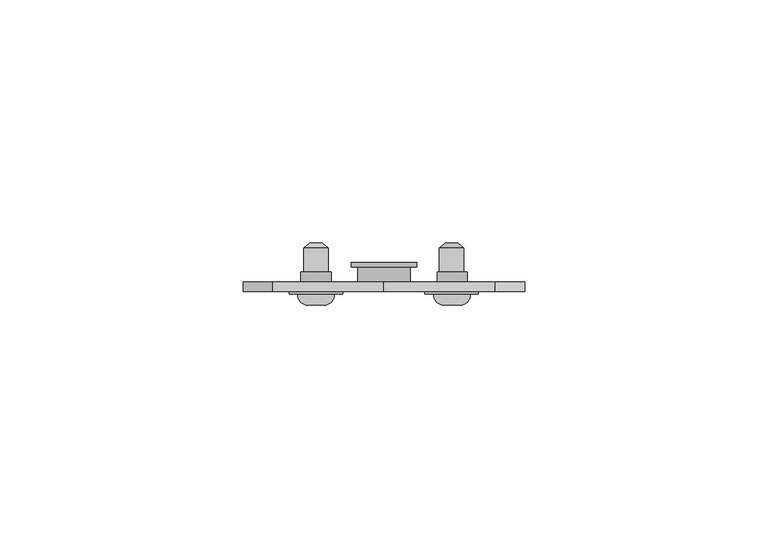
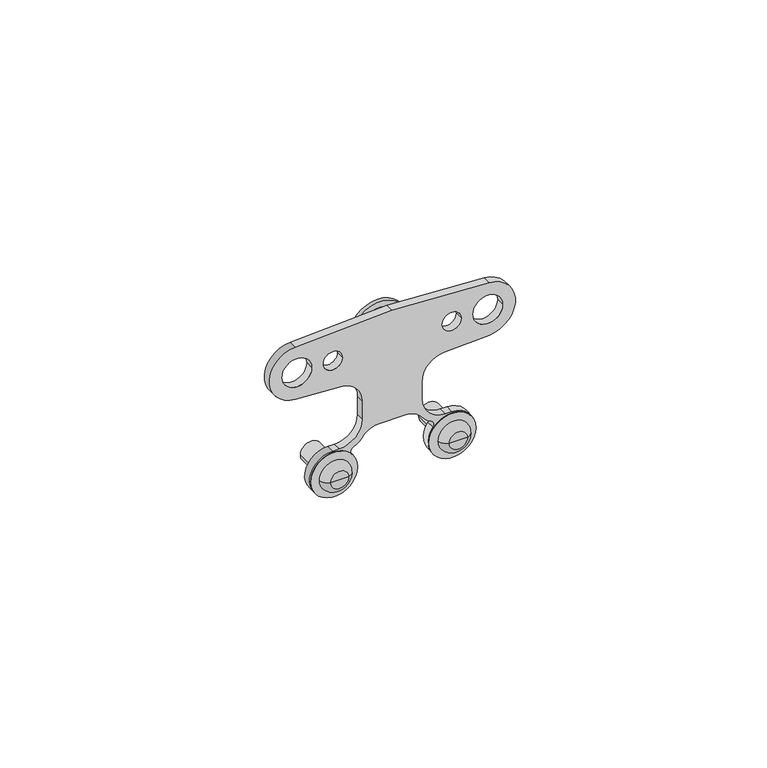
"""IFC4 building model written with IfcOpenShell, lengths in millimetres: proxy geometry, REHAU_RAUTITAN_Insulation plate for brackets : REHAU_RAUTITAN_Insulation plate for brackets."""

from ifc_helpers import new_model, si_unit, point, frame, frame_2d, origin, place, context, project, spatial, polyline, circle_curve, ellipse_curve, trimmed, segment, composite_curve, outline, extrude, source, transform, mapped, element, save
from ifc_brep_helpers import plane_surface, revolved_surface, advanced_brep


def mechanical_equipment_31ec48f0(model_context):
    return source(origin(), model_context, "Body", "SolidModel", [
        extrude(outline(composite_curve([segment(polyline([(-22.5, 14.0625605), (-22.5, 12.5625605)]), True, "CONTINUOUS"), segment(trimmed(circle_curve(frame_2d((-17.0, 12.5625605)), 5.5), [point((-22.5, 12.5625605))], [point((-17.0, 7.0625605))], True, "CARTESIAN"), True, "CONTINUOUS"), segment(polyline([(-17.0, 7.0625605), (-12.5524507, 7.0625605)]), True, "CONTINUOUS"), segment(trimmed(circle_curve(frame_2d((-12.5524507, 12.5625605)), 5.5), [point((-12.5524507, 7.0625605))], [point((-7.0599882, 12.2747127))], True, "CARTESIAN"), True, "CONTINUOUS"), segment(polyline([(-7.0599882, 12.2747127), (-6.4990411, 22.9026404)]), True, "CONTINUOUS"), segment(trimmed(circle_curve(frame_2d((1e-07, 22.5627668)), 6.5079221), [point((-6.4990411, 22.9026404))], [point((6.4990418, 22.9026304))], False, "CARTESIAN"), True, "CONTINUOUS"), segment(polyline([(6.4990418, 22.9026304), (7.6967213, 0.0), (6.4950803, -22.7771082)]), True, "CONTINUOUS"), segment(trimmed(circle_curve(frame_2d((-0.0039864, -22.4376495)), 6.5079259), [point((6.4950803, -22.7771082))], [point((-6.5036217, -22.76604))], False, "CARTESIAN"), True, "CONTINUOUS"), segment(polyline([(-6.5036217, -22.76604), (-7.0599877, -12.1496011)]), True, "CONTINUOUS"), segment(trimmed(circle_curve(frame_2d((-12.5524507, -12.4374395)), 5.5), [point((-7.0599877, -12.1496011))], [point((-12.5524507, -6.9374395))], True, "CARTESIAN"), True, "CONTINUOUS"), segment(polyline([(-12.5524507, -6.9374395), (-17.0, -6.9374395)]), True, "CONTINUOUS"), segment(trimmed(circle_curve(frame_2d((-17.0, -12.4374395)), 5.5), [point((-17.0, -6.9374395))], [point((-22.5, -12.4374395))], True, "CARTESIAN"), True, "CONTINUOUS"), segment(polyline([(-22.5, -12.4374395), (-22.5, -13.9389471)]), True, "CONTINUOUS"), segment(trimmed(circle_curve(frame_2d((-28.0, -13.9389471)), 5.5), [point((-22.5, -13.9389471))], [point((-24.7162453, -9.5268099))], False, "CARTESIAN"), True, "CONTINUOUS"), segment(trimmed(circle_curve(frame_2d((-24.0956729, -8.7426608)), 1.0), [point((-24.7162453, -9.5268099))], [point((-23.1790312, -9.1423708))], True, "CARTESIAN"), True, "CONTINUOUS"), segment(trimmed(circle_curve(frame_2d((-18.5958231, -11.1409211)), 5.0), [point((-23.1790312, -9.1423708))], [point((-21.5479116, -7.1054318))], False, "CARTESIAN"), True, "CONTINUOUS"), segment(trimmed(circle_curve(frame_2d((-24.5, -3.0699425)), 5.0), [point((-21.5479116, -7.1054318))], [point((-19.5, -3.0699425))], True, "CARTESIAN"), True, "CONTINUOUS"), segment(polyline([(-19.5, -3.0699425), (-19.5, 3.1949762)]), True, "CONTINUOUS"), segment(trimmed(circle_curve(frame_2d((-24.5, 3.1949762)), 5.0), [point((-19.5, 3.1949762))], [point((-21.5479116, 7.2304655))], True, "CARTESIAN"), True, "CONTINUOUS"), segment(trimmed(circle_curve(frame_2d((-18.5958231, 11.2659548)), 5.0), [point((-21.5479116, 7.2304655))], [point((-23.1790312, 9.2674045))], False, "CARTESIAN"), True, "CONTINUOUS"), segment(trimmed(circle_curve(frame_2d((-24.0956729, 8.8676944)), 1.0), [point((-23.1790312, 9.2674045))], [point((-24.7360783, 9.6357314))], True, "CARTESIAN"), True, "CONTINUOUS"), segment(trimmed(circle_curve(frame_2d((-28.0, 14.0625605)), 5.5), [point((-24.7360783, 9.6357314))], [point((-22.5, 14.0625605))], False, "CARTESIAN"), True, "CONTINUOUS")], self_intersect=False), holes=[composite_curve([segment(trimmed(circle_curve(frame_2d((0.0, 22.5625605)), 3.5), [point((0.0, 26.0625605))], [point((0.0, 19.0625605))], True, "CARTESIAN"), True, "CONTINUOUS"), segment(trimmed(circle_curve(frame_2d((0.0, 22.5625605)), 3.5), [point((0.0, 19.0625605))], [point((0.0, 26.0625605))], True, "CARTESIAN"), True, "CONTINUOUS")], self_intersect=False), composite_curve([segment(trimmed(circle_curve(frame_2d((0.0, -22.4374395)), 3.5), [point((0.0, -18.9374395))], [point((0.0, -25.9374395))], True, "CARTESIAN"), True, "CONTINUOUS"), segment(trimmed(circle_curve(frame_2d((0.0, -22.4374395)), 3.5), [point((0.0, -25.9374395))], [point((0.0, -18.9374395))], True, "CARTESIAN"), True, "CONTINUOUS")], self_intersect=False), composite_curve([segment(trimmed(circle_curve(frame_2d((0.0, -13.9374395)), 2.25), [point((0.0, -11.6874395))], [point((0.0, -16.1874395))], True, "CARTESIAN"), True, "CONTINUOUS"), segment(trimmed(circle_curve(frame_2d((0.0, -13.9374395)), 2.25), [point((0.0, -16.1874395))], [point((0.0, -11.6874395))], True, "CARTESIAN"), True, "CONTINUOUS")], self_intersect=False), composite_curve([segment(trimmed(circle_curve(frame_2d((0.0, 14.0625605)), 2.25), [point((0.0, 16.3125605))], [point((0.0, 11.8125605))], True, "CARTESIAN"), True, "CONTINUOUS"), segment(trimmed(circle_curve(frame_2d((0.0, 14.0625605)), 2.25), [point((0.0, 11.8125605))], [point((0.0, 16.3125605))], True, "CARTESIAN"), True, "CONTINUOUS")], self_intersect=False), composite_curve([segment(trimmed(circle_curve(frame_2d((-28.0, 14.0625605)), 2.25), [point((-28.0, 16.3125605))], [point((-28.0, 11.8125605))], True, "CARTESIAN"), True, "CONTINUOUS"), segment(trimmed(circle_curve(frame_2d((-28.0, 14.0625605)), 2.25), [point((-28.0, 11.8125605))], [point((-28.0, 16.3125605))], True, "CARTESIAN"), True, "CONTINUOUS")], self_intersect=False), composite_curve([segment(trimmed(circle_curve(frame_2d((-28.0, -13.9374395)), 2.25), [point((-28.0, -11.6874395))], [point((-28.0, -16.1874395))], True, "CARTESIAN"), True, "CONTINUOUS"), segment(trimmed(circle_curve(frame_2d((-28.0, -13.9374395)), 2.25), [point((-28.0, -16.1874395))], [point((-28.0, -11.6874395))], True, "CARTESIAN"), True, "CONTINUOUS")], self_intersect=False)]), frame((0.0, -2.0, 0.0), z_axis=(0.0, 1.0, 0.0), x_axis=(0.0, 0.0, 1.0)), (0.0, 0.0, 1.0), 2.0),
        extrude(outline(composite_curve([segment(trimmed(circle_curve(frame_2d((-28.0, -13.9374395)), 3.1), [point((-28.0, -10.8374395))], [point((-28.0, -17.0374395))], False, "CARTESIAN"), True, "CONTINUOUS"), segment(trimmed(circle_curve(frame_2d((-28.0, -13.9374395)), 3.1), [point((-28.0, -17.0374395))], [point((-28.0, -10.8374395))], False, "CARTESIAN"), True, "CONTINUOUS")], self_intersect=False), holes=[composite_curve([segment(trimmed(circle_curve(frame_2d((-28.0, -13.9374395)), 2.25), [point((-28.0, -16.1874395))], [point((-28.0, -11.6874395))], True, "CARTESIAN"), True, "CONTINUOUS"), segment(trimmed(circle_curve(frame_2d((-28.0, -13.9374395)), 2.25), [point((-28.0, -11.6874395))], [point((-28.0, -16.1874395))], True, "CARTESIAN"), True, "CONTINUOUS")], self_intersect=False)]), frame((0.0, 0.0, 0.0), z_axis=(0.0, 1.0, 0.0), x_axis=(0.0, 0.0, 1.0)), (0.0, 0.0, 1.0), 2.0),
        extrude(outline(composite_curve([segment(trimmed(circle_curve(frame_2d((-28.0, 14.0625605)), 3.1), [point((-28.0, 17.1625605))], [point((-28.0, 10.9625605))], False, "CARTESIAN"), True, "CONTINUOUS"), segment(trimmed(circle_curve(frame_2d((-28.0, 14.0625605)), 3.1), [point((-28.0, 10.9625605))], [point((-28.0, 17.1625605))], False, "CARTESIAN"), True, "CONTINUOUS")], self_intersect=False), holes=[composite_curve([segment(trimmed(circle_curve(frame_2d((-28.0, 14.0625605)), 2.25), [point((-28.0, 11.8125605))], [point((-28.0, 16.3125605))], True, "CARTESIAN"), True, "CONTINUOUS"), segment(trimmed(circle_curve(frame_2d((-28.0, 14.0625605)), 2.25), [point((-28.0, 16.3125605))], [point((-28.0, 11.8125605))], True, "CARTESIAN"), True, "CONTINUOUS")], self_intersect=False)]), frame((0.0, 0.0, 0.0), z_axis=(0.0, 1.0, 0.0), x_axis=(0.0, 0.0, 1.0)), (0.0, 0.0, 1.0), 2.0),
        extrude(outline(composite_curve([segment(trimmed(circle_curve(frame_2d((0.0, 0.0625605)), 5.4), [point((0.0, 5.4625605))], [point((0.0, -5.3374395))], False, "CARTESIAN"), True, "CONTINUOUS"), segment(trimmed(circle_curve(frame_2d((0.0, 0.0625605)), 5.4), [point((0.0, -5.3374395))], [point((0.0, 5.4625605))], False, "CARTESIAN"), True, "CONTINUOUS")], self_intersect=False)), frame((0.0, 0.0, 0.0), z_axis=(0.0, 1.0, 0.0), x_axis=(0.0, 0.0, 1.0)), (0.0, 0.0, 1.0), 3.0),
        extrude(outline(composite_curve([segment(trimmed(circle_curve(frame_2d((0.0, 0.0625605)), 6.75), [point((0.0, -6.6874395))], [point((0.0, 6.8125605))], False, "CARTESIAN"), True, "CONTINUOUS"), segment(trimmed(circle_curve(frame_2d((0.0, 0.0625605)), 6.75), [point((0.0, 6.8125605))], [point((0.0, -6.6874395))], False, "CARTESIAN"), True, "CONTINUOUS")], self_intersect=False)), frame((0.0, 3.0, 0.0), z_axis=(0.0, 1.0, 0.0), x_axis=(0.0, 0.0, 1.0)), (0.0, 0.0, 1.0), 1.0),
        extrude(outline(composite_curve([segment(trimmed(circle_curve(frame_2d((-28.0, -13.9374395)), 2.5495098), [point((-28.0, -16.4869493))], [point((-28.0, -11.3879298))], False, "CARTESIAN"), True, "CONTINUOUS"), segment(trimmed(circle_curve(frame_2d((-28.0, -13.9374395)), 2.5495098), [point((-28.0, -11.3879298))], [point((-28.0, -16.4869493))], False, "CARTESIAN"), True, "CONTINUOUS")], self_intersect=False)), frame((0.0, -2.0, 0.0), z_axis=(0.0, 1.0, 0.0), x_axis=(0.0, 0.0, 1.0)), (0.0, 0.0, 1.0), 8.9),
        extrude(outline(composite_curve([segment(trimmed(circle_curve(frame_2d((-28.0, 13.9374395)), 2.5495098), [point((-28.0, 16.4869493))], [point((-28.0, 11.3879298))], False, "CARTESIAN"), True, "CONTINUOUS"), segment(trimmed(circle_curve(frame_2d((-28.0, 13.9374395)), 2.5495098), [point((-28.0, 11.3879298))], [point((-28.0, 16.4869493))], False, "CARTESIAN"), True, "CONTINUOUS")], self_intersect=False)), frame((0.0, -2.0, 0.0), z_axis=(0.0, 1.0, 0.0), x_axis=(0.0, 0.0, 1.0)), (0.0, 0.0, 1.0), 8.9),
        extrude(outline(composite_curve([segment(trimmed(circle_curve(frame_2d((-28.0, -13.9374395)), 5.4984924), [point((-28.0, -8.4389471))], [point((-28.0, -19.435932))], False, "CARTESIAN"), True, "CONTINUOUS"), segment(trimmed(circle_curve(frame_2d((-28.0, -13.9374395)), 5.4984924), [point((-28.0, -19.435932))], [point((-28.0, -8.4389471))], False, "CARTESIAN"), True, "CONTINUOUS")], self_intersect=False)), frame((0.0, -2.55, 0.0), z_axis=(0.0, 1.0, 0.0), x_axis=(0.0, 0.0, 1.0)), (0.0, 0.0, 1.0), 0.55),
        extrude(outline(composite_curve([segment(trimmed(circle_curve(frame_2d((-28.0, 13.9374395)), 5.4984924), [point((-28.0, 8.4389471))], [point((-28.0, 19.435932))], False, "CARTESIAN"), True, "CONTINUOUS"), segment(trimmed(circle_curve(frame_2d((-28.0, 13.9374395)), 5.4984924), [point((-28.0, 19.435932))], [point((-28.0, 8.4389471))], False, "CARTESIAN"), True, "CONTINUOUS")], self_intersect=False)), frame((0.0, -2.55, 0.0), z_axis=(0.0, 1.0, 0.0), x_axis=(0.0, 0.0, 1.0)), (0.0, 0.0, 1.0), 0.55),
        advanced_brep(
        [(-13.9374395, -4.7430172, -28.0), (-16.0553232, -4.7430172, -28.0), (-11.8195559, -4.7430172, -28.0), (-10.1726229, -2.55, -28.0), (-17.7022562, -2.55, -28.0), (-13.9374395, -2.55, -28.0)],
        [
            (0, 1),
            (1, 2, circle_curve(frame((-13.9374395, -4.7430172, -28.0), z_axis=(0.0, -1.0, 0.0), x_axis=(-1.0, 0.0, 0.0)), 2.1178837)),
            (2, 0),
            (2, 1, circle_curve(frame((-13.9374395, -4.7430172, -28.0), z_axis=(0.0, -1.0, 0.0), x_axis=(-1.0, 0.0, 0.0)), 2.1178837)),
            (3, 4, circle_curve(frame((-13.9374395, -2.55, -28.0), z_axis=(0.0, 1.0, 0.0), x_axis=(-1.0, 0.0, 0.0)), 3.7648166)),
            (4, 5),
            (5, 3),
            (4, 3, circle_curve(frame((-13.9374395, -2.55, -28.0), z_axis=(0.0, 1.0, 0.0), x_axis=(-1.0, 0.0, 0.0)), 3.7648166)),
            (1, 4, circle_curve(frame((-15.6461965, -2.7208441, -28.0), z_axis=(0.0, 0.0, -1.0), x_axis=(1.0, 0.0, 0.0)), 2.0631454)),
            (3, 2, circle_curve(frame((-12.2286826, -2.7208441, -28.0), z_axis=(0.0, 0.0, -1.0), x_axis=(-1.0, 0.0, 0.0)), 2.0631454)),
        ],
        [
            plane_surface(frame((-13.9374395, -4.7430172, -28.0), z_axis=(0.0, -1.0, 0.0), x_axis=(-1.0, 0.0, 0.0))),
            plane_surface(frame((-13.9374395, -2.55, -28.0), z_axis=(0.0, 1.0, 0.0), x_axis=(-1.0, 0.0, 0.0))),
            revolved_surface(trimmed(ellipse_curve(frame((-15.6461965, -2.7208441, -28.0), z_axis=(0.0, 0.0, 1.0), x_axis=(1.0, 0.0, 0.0)), 2.0631454, 2.0631454), [point((-17.7022562, -2.55, -28.0))], [point((-16.0553232, -4.7430172, -28.0))], True, "CARTESIAN"), (-13.9374395, -2.55, -28.0), (0.0, -1.0, 0.0)),
        ],
        [
            (0, [[1, 2, 3]]),
            (0, [[-3, 4, -1]]),
            (1, [[5, 6, 7]]),
            (1, [[8, -7, -6]]),
            (2, [[-2, 9, -5, 10]]),
            (2, [[-4, -10, -8, -9]]),
        ],
    ),
        advanced_brep(
        [(14.064068, -4.7430172, -28.0), (11.9461844, -4.7430172, -28.0), (16.1819517, -4.7430172, -28.0), (17.8288847, -2.55, -28.0), (10.2992514, -2.55, -28.0), (14.064068, -2.55, -28.0)],
        [
            (0, 1),
            (1, 2, circle_curve(frame((14.064068, -4.7430172, -28.0), z_axis=(0.0, -1.0, 0.0), x_axis=(-1.0, 0.0, 0.0)), 2.1178837)),
            (2, 0),
            (2, 1, circle_curve(frame((14.064068, -4.7430172, -28.0), z_axis=(0.0, -1.0, 0.0), x_axis=(-1.0, 0.0, 0.0)), 2.1178837)),
            (3, 4, circle_curve(frame((14.064068, -2.55, -28.0), z_axis=(0.0, 1.0, 0.0), x_axis=(-1.0, 0.0, 0.0)), 3.7648166)),
            (4, 5),
            (5, 3),
            (4, 3, circle_curve(frame((14.064068, -2.55, -28.0), z_axis=(0.0, 1.0, 0.0), x_axis=(-1.0, 0.0, 0.0)), 3.7648166)),
            (1, 4, circle_curve(frame((12.3553111, -2.7208441, -28.0), z_axis=(0.0, 0.0, -1.0), x_axis=(1.0, 0.0, 0.0)), 2.0631454)),
            (3, 2, circle_curve(frame((15.772825, -2.7208441, -28.0), z_axis=(0.0, 0.0, -1.0), x_axis=(-1.0, 0.0, 0.0)), 2.0631454)),
        ],
        [
            plane_surface(frame((14.064068, -4.7430172, -28.0), z_axis=(0.0, -1.0, 0.0), x_axis=(-1.0, 0.0, 0.0))),
            plane_surface(frame((14.064068, -2.55, -28.0), z_axis=(0.0, 1.0, 0.0), x_axis=(-1.0, 0.0, 0.0))),
            revolved_surface(trimmed(ellipse_curve(frame((12.3553111, -2.7208441, -28.0), z_axis=(0.0, 0.0, 1.0), x_axis=(1.0, 0.0, 0.0)), 2.0631454, 2.0631454), [point((10.2992514, -2.55, -28.0))], [point((11.9461844, -4.7430172, -28.0))], True, "CARTESIAN"), (14.064068, -2.55, -28.0), (0.0, -1.0, 0.0)),
        ],
        [
            (0, [[1, 2, 3]]),
            (0, [[-3, 4, -1]]),
            (1, [[5, 6, 7]]),
            (1, [[8, -7, -6]]),
            (2, [[-2, 9, -5, 10]]),
            (2, [[-4, -10, -8, -9]]),
        ],
    ),
        advanced_brep(
        [(-12.6674395, 8.0, -28.0), (-15.2074395, 8.0, -28.0), (-13.9374395, 8.0, -28.0), (-11.3879298, 6.9, -28.0), (-16.4869493, 6.9, -28.0), (-13.9374395, 6.9, -28.0)],
        [
            (0, 1, circle_curve(frame((-13.9374395, 8.0, -28.0), z_axis=(0.0, 1.0, 0.0), x_axis=(-1.0, 0.0, 0.0)), 1.27)),
            (1, 2),
            (2, 0),
            (1, 0, circle_curve(frame((-13.9374395, 8.0, -28.0), z_axis=(0.0, 1.0, 0.0), x_axis=(-1.0, 0.0, 0.0)), 1.27)),
            (3, 4, circle_curve(frame((-13.9374395, 6.9, -28.0), z_axis=(0.0, 1.0, 0.0), x_axis=(-1.0, 0.0, 0.0)), 2.5495098)),
            (4, 1),
            (0, 3),
            (4, 3, circle_curve(frame((-13.9374395, 6.9, -28.0), z_axis=(0.0, 1.0, 0.0), x_axis=(-1.0, 0.0, 0.0)), 2.5495098)),
            (5, 4),
            (3, 5),
        ],
        [
            plane_surface(frame((-13.9374395, 8.0, -28.0), z_axis=(0.0, 1.0, 0.0), x_axis=(-1.0, 0.0, 0.0))),
            revolved_surface(polyline([(-15.2074395, 8.0, -28.0), (-16.4869493, 6.9, -28.0)]), (-13.9374395, 8.0, -28.0), (0.0, -1.0, 0.0)),
            plane_surface(frame((-13.9374395, 6.9, -28.0), z_axis=(0.0, -1.0, 0.0), x_axis=(-1.0, 0.0, 0.0))),
        ],
        [
            (0, [[1, 2, 3]]),
            (0, [[4, -3, -2]]),
            (1, [[5, 6, -1, 7]]),
            (1, [[8, -7, -4, -6]]),
            (2, [[9, -5, 10]]),
            (2, [[-10, -8, -9]]),
        ],
    ),
        advanced_brep(
        [(13.9374395, 8.0, -28.0), (15.2074395, 8.0, -28.0), (12.6674395, 8.0, -28.0), (16.4869493, 6.9, -28.0), (11.3879298, 6.9, -28.0), (13.9374395, 6.9, -28.0)],
        [
            (0, 1),
            (1, 2, circle_curve(frame((13.9374395, 8.0, -28.0), z_axis=(0.0, 1.0, 0.0), x_axis=(1.0, 0.0, 0.0)), 1.27)),
            (2, 0),
            (2, 1, circle_curve(frame((13.9374395, 8.0, -28.0), z_axis=(0.0, 1.0, 0.0), x_axis=(1.0, 0.0, 0.0)), 1.27)),
            (1, 3),
            (3, 4, circle_curve(frame((13.9374395, 6.9, -28.0), z_axis=(0.0, 1.0, 0.0), x_axis=(1.0, 0.0, 0.0)), 2.5495098)),
            (4, 2),
            (4, 3, circle_curve(frame((13.9374395, 6.9, -28.0), z_axis=(0.0, 1.0, 0.0), x_axis=(1.0, 0.0, 0.0)), 2.5495098)),
            (3, 5),
            (5, 4),
        ],
        [
            plane_surface(frame((13.9374395, 8.0, -28.0), z_axis=(0.0, 1.0, 0.0), x_axis=(1.0, 0.0, 0.0))),
            revolved_surface(polyline([(16.4869493, 6.9, -28.0), (15.2074395, 8.0, -28.0)]), (13.9374395, 8.0, -28.0), (0.0, 1.0, 0.0)),
            plane_surface(frame((13.9374395, 6.9, -28.0), z_axis=(0.0, -1.0, 0.0), x_axis=(1.0, 0.0, 0.0))),
        ],
        [
            (0, [[1, 2, 3]]),
            (0, [[-3, 4, -1]]),
            (1, [[-2, 5, 6, 7]]),
            (1, [[-4, -7, 8, -5]]),
            (2, [[-6, 9, 10]]),
            (2, [[-8, -10, -9]]),
        ],
    ),
    ])


if __name__ == "__main__":
    model = new_model("IFC4")
    model_context = context("Model", 3, world=origin())
    ifc_project = project(units=[si_unit("LENGTHUNIT", "METRE", prefix="MILLI")], contexts=[model_context])
    site = spatial("IfcSite", under=ifc_project)
    building = spatial("IfcBuilding", under=site)
    placement = place(None, origin())
    mechanical_equipment_shape = mechanical_equipment_31ec48f0(model_context)
    element("IfcBuildingElementProxy", 1, Name="REHAU_RAUTITAN_Insulation plate for brackets : REHAU_RAUTITAN_Insulation plate for brackets", ObjectType="REHAU_RAUTITAN_Insulation plate for brackets : REHAU_RAUTITAN_Insulation plate for brackets", at=placement, inside=building, context=model_context, shape_type="MappedRepresentation", body=[
        mapped(mechanical_equipment_shape, transform((0.0, 0.0, 0.0), x_axis=(1.0, 0.0, 0.0), y_axis=(0.0, 1.0, 0.0), z_axis=(0.0, 0.0, 1.0))),
    ])
    save(model, "model.ifc")
